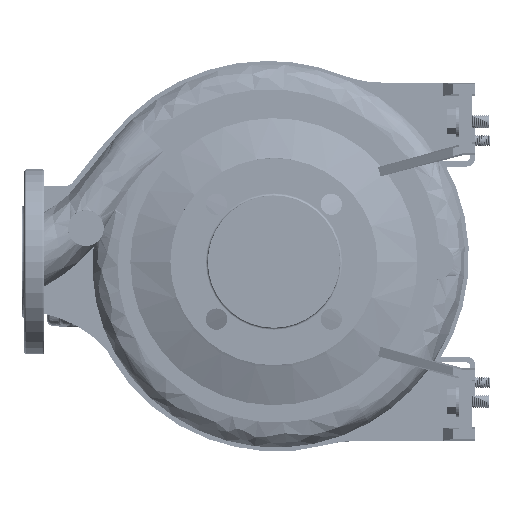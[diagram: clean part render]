
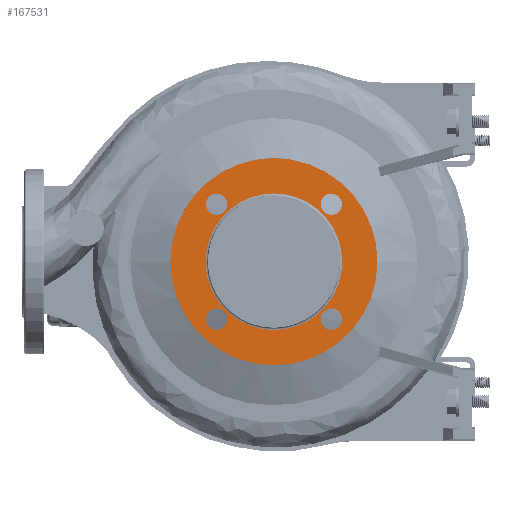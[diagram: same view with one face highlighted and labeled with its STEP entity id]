
A CAD part, left-side view. The second image highlights one B-rep face of the part: STEP entity #167531.
In plain terms, the highlighted planar face has unit normal (-1, 0, 0).
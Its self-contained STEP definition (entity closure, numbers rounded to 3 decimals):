
#414 = DIRECTION ( 'NONE',  ( 0., -1., 0. ) ) ;
#1096 = CIRCLE ( 'NONE', #25964, 9.5 ) ;
#3882 = ORIENTED_EDGE ( 'NONE', *, *, #30816, .F. ) ;
#6359 = CIRCLE ( 'NONE', #102865, 92.5 ) ;
#7039 = CARTESIAN_POINT ( 'NONE',  ( -98., -51.265, 41.765 ) ) ;
#8091 = VERTEX_POINT ( 'NONE', #98001 ) ;
#9513 = CARTESIAN_POINT ( 'NONE',  ( -98., 60.765, 51.265 ) ) ;
#9839 = DIRECTION ( 'NONE',  ( 0., 1., 0. ) ) ;
#11845 = CIRCLE ( 'NONE', #135949, 9.5 ) ;
#14745 = DIRECTION ( 'NONE',  ( -1., 0., 0. ) ) ;
#18805 = CIRCLE ( 'NONE', #73979, 61. ) ;
#19318 = VERTEX_POINT ( 'NONE', #140606 ) ;
#20040 = DIRECTION ( 'NONE',  ( 0., -1., 0. ) ) ;
#24149 = ORIENTED_EDGE ( 'NONE', *, *, #168533, .F. ) ;
#25964 = AXIS2_PLACEMENT_3D ( 'NONE', #110419, #163104, #44752 ) ;
#26409 = EDGE_CURVE ( 'NONE', #160502, #70200, #128649, .T. ) ;
#26919 = ORIENTED_EDGE ( 'NONE', *, *, #167128, .T. ) ;
#29007 = DIRECTION ( 'NONE',  ( -1., 0., 0. ) ) ;
#30816 = EDGE_CURVE ( 'NONE', #109423, #133496, #11845, .T. ) ;
#31206 = DIRECTION ( 'NONE',  ( -1., 0., 0. ) ) ;
#32126 = DIRECTION ( 'NONE',  ( -1., 0., 0. ) ) ;
#32672 = CARTESIAN_POINT ( 'NONE',  ( -98., 0., 0. ) ) ;
#33238 = EDGE_LOOP ( 'NONE', ( #149882, #120349 ) ) ;
#36267 = AXIS2_PLACEMENT_3D ( 'NONE', #104863, #131645, #414 ) ;
#37801 = DIRECTION ( 'NONE',  ( 1., 0., 0. ) ) ;
#37966 = DIRECTION ( 'NONE',  ( 0., 0., -1. ) ) ;
#37975 = CIRCLE ( 'NONE', #115182, 9.5 ) ;
#38346 = AXIS2_PLACEMENT_3D ( 'NONE', #93298, #14745, #135593 ) ;
#40381 = CARTESIAN_POINT ( 'NONE',  ( -98., 51.265, -51.265 ) ) ;
#42328 = ORIENTED_EDGE ( 'NONE', *, *, #152050, .F. ) ;
#42766 = EDGE_LOOP ( 'NONE', ( #85285, #104868 ) ) ;
#44752 = DIRECTION ( 'NONE',  ( 0., 0., 1. ) ) ;
#45343 = DIRECTION ( 'NONE',  ( 0., -1., 0. ) ) ;
#45909 = FACE_OUTER_BOUND ( 'NONE', #33238, .T. ) ;
#47424 = ORIENTED_EDGE ( 'NONE', *, *, #75662, .F. ) ;
#51320 = AXIS2_PLACEMENT_3D ( 'NONE', #32672, #59417, #56853 ) ;
#51357 = CARTESIAN_POINT ( 'NONE',  ( -98., -51.265, -51.265 ) ) ;
#53063 = DIRECTION ( 'NONE',  ( 0., 1., 0. ) ) ;
#54911 = ORIENTED_EDGE ( 'NONE', *, *, #26409, .T. ) ;
#56133 = CARTESIAN_POINT ( 'NONE',  ( -98., 0., 0. ) ) ;
#56853 = DIRECTION ( 'NONE',  ( 0., 1., 0. ) ) ;
#58570 = EDGE_CURVE ( 'NONE', #8091, #110265, #100373, .T. ) ;
#59417 = DIRECTION ( 'NONE',  ( 1., 0., 0. ) ) ;
#63254 = VERTEX_POINT ( 'NONE', #7039 ) ;
#69314 = CARTESIAN_POINT ( 'NONE',  ( -98., -60.765, -51.265 ) ) ;
#70200 = VERTEX_POINT ( 'NONE', #100664 ) ;
#71241 = CARTESIAN_POINT ( 'NONE',  ( -98., 51.265, 51.265 ) ) ;
#72237 = CARTESIAN_POINT ( 'NONE',  ( -98., 92.5, 0. ) ) ;
#73979 = AXIS2_PLACEMENT_3D ( 'NONE', #156599, #167868, #9839 ) ;
#75137 = DIRECTION ( 'NONE',  ( -1., 0., 0. ) ) ;
#75662 = EDGE_CURVE ( 'NONE', #19318, #109527, #1096, .T. ) ;
#77530 = CIRCLE ( 'NONE', #91354, 9.5 ) ;
#79554 = AXIS2_PLACEMENT_3D ( 'NONE', #162543, #32126, #20040 ) ;
#81991 = CARTESIAN_POINT ( 'NONE',  ( -98., 41.765, 51.265 ) ) ;
#82462 = EDGE_CURVE ( 'NONE', #103942, #166622, #37975, .T. ) ;
#83196 = VERTEX_POINT ( 'NONE', #104650 ) ;
#85285 = ORIENTED_EDGE ( 'NONE', *, *, #123116, .F. ) ;
#88315 = CIRCLE ( 'NONE', #102133, 9.5 ) ;
#89452 = EDGE_LOOP ( 'NONE', ( #103983, #42328 ) ) ;
#90009 = CARTESIAN_POINT ( 'NONE',  ( -98., 61., 0. ) ) ;
#91354 = AXIS2_PLACEMENT_3D ( 'NONE', #40381, #105183, #158728 ) ;
#93298 = CARTESIAN_POINT ( 'NONE',  ( -98., -51.265, -51.265 ) ) ;
#94636 = EDGE_LOOP ( 'NONE', ( #24149, #3882 ) ) ;
#96822 = CARTESIAN_POINT ( 'NONE',  ( -98., -51.265, 51.265 ) ) ;
#97754 = FACE_BOUND ( 'NONE', #104110, .T. ) ;
#98001 = CARTESIAN_POINT ( 'NONE',  ( -98., -92.5, 0. ) ) ;
#100373 = CIRCLE ( 'NONE', #111471, 92.5 ) ;
#100664 = CARTESIAN_POINT ( 'NONE',  ( -98., -61., 0. ) ) ;
#102133 = AXIS2_PLACEMENT_3D ( 'NONE', #157158, #75137, #37966 ) ;
#102865 = AXIS2_PLACEMENT_3D ( 'NONE', #116427, #37801, #130236 ) ;
#103942 = VERTEX_POINT ( 'NONE', #9513 ) ;
#103983 = ORIENTED_EDGE ( 'NONE', *, *, #151250, .F. ) ;
#104110 = EDGE_LOOP ( 'NONE', ( #47424, #168582 ) ) ;
#104650 = CARTESIAN_POINT ( 'NONE',  ( -98., -51.265, 60.765 ) ) ;
#104863 = CARTESIAN_POINT ( 'NONE',  ( -98., 51.265, 51.265 ) ) ;
#104868 = ORIENTED_EDGE ( 'NONE', *, *, #82462, .F. ) ;
#105183 = DIRECTION ( 'NONE',  ( -1., 0., 0. ) ) ;
#108842 = DIRECTION ( 'NONE',  ( 1., 0., 0. ) ) ;
#109423 = VERTEX_POINT ( 'NONE', #165044 ) ;
#109527 = VERTEX_POINT ( 'NONE', #127851 ) ;
#110265 = VERTEX_POINT ( 'NONE', #72237 ) ;
#110419 = CARTESIAN_POINT ( 'NONE',  ( -98., 51.265, -51.265 ) ) ;
#110713 = FACE_BOUND ( 'NONE', #165516, .T. ) ;
#110766 = CIRCLE ( 'NONE', #36267, 9.5 ) ;
#111471 = AXIS2_PLACEMENT_3D ( 'NONE', #56133, #108842, #161525 ) ;
#115182 = AXIS2_PLACEMENT_3D ( 'NONE', #71241, #29007, #45343 ) ;
#116427 = CARTESIAN_POINT ( 'NONE',  ( -98., 0., 0. ) ) ;
#120349 = ORIENTED_EDGE ( 'NONE', *, *, #58570, .F. ) ;
#121964 = FACE_BOUND ( 'NONE', #42766, .T. ) ;
#122760 = DIRECTION ( 'NONE',  ( 0., 0., -1. ) ) ;
#123116 = EDGE_CURVE ( 'NONE', #166622, #103942, #110766, .T. ) ;
#124951 = EDGE_CURVE ( 'NONE', #110265, #8091, #6359, .T. ) ;
#127851 = CARTESIAN_POINT ( 'NONE',  ( -98., 51.265, -60.765 ) ) ;
#128649 = CIRCLE ( 'NONE', #51320, 61. ) ;
#130236 = DIRECTION ( 'NONE',  ( 0., 1., 0. ) ) ;
#131645 = DIRECTION ( 'NONE',  ( -1., 0., 0. ) ) ;
#132615 = CIRCLE ( 'NONE', #154672, 9.5 ) ;
#133496 = VERTEX_POINT ( 'NONE', #69314 ) ;
#135593 = DIRECTION ( 'NONE',  ( 0., 1., 0. ) ) ;
#135949 = AXIS2_PLACEMENT_3D ( 'NONE', #51357, #145515, #53063 ) ;
#136643 = PLANE ( 'NONE',  #79554 ) ;
#137509 = FACE_BOUND ( 'NONE', #94636, .T. ) ;
#140606 = CARTESIAN_POINT ( 'NONE',  ( -98., 51.265, -41.765 ) ) ;
#145515 = DIRECTION ( 'NONE',  ( -1., 0., 0. ) ) ;
#146612 = EDGE_CURVE ( 'NONE', #109527, #19318, #77530, .T. ) ;
#149882 = ORIENTED_EDGE ( 'NONE', *, *, #124951, .F. ) ;
#151250 = EDGE_CURVE ( 'NONE', #83196, #63254, #88315, .T. ) ;
#152050 = EDGE_CURVE ( 'NONE', #63254, #83196, #132615, .T. ) ;
#154672 = AXIS2_PLACEMENT_3D ( 'NONE', #96822, #31206, #122760 ) ;
#156599 = CARTESIAN_POINT ( 'NONE',  ( -98., 0., 0. ) ) ;
#156982 = CIRCLE ( 'NONE', #38346, 9.5 ) ;
#157158 = CARTESIAN_POINT ( 'NONE',  ( -98., -51.265, 51.265 ) ) ;
#158728 = DIRECTION ( 'NONE',  ( 0., 0., 1. ) ) ;
#160502 = VERTEX_POINT ( 'NONE', #90009 ) ;
#161525 = DIRECTION ( 'NONE',  ( 0., 1., 0. ) ) ;
#162543 = CARTESIAN_POINT ( 'NONE',  ( -98., 61., 0. ) ) ;
#163104 = DIRECTION ( 'NONE',  ( -1., 0., 0. ) ) ;
#164271 = FACE_BOUND ( 'NONE', #89452, .T. ) ;
#165044 = CARTESIAN_POINT ( 'NONE',  ( -98., -41.765, -51.265 ) ) ;
#165516 = EDGE_LOOP ( 'NONE', ( #54911, #26919 ) ) ;
#166622 = VERTEX_POINT ( 'NONE', #81991 ) ;
#167128 = EDGE_CURVE ( 'NONE', #70200, #160502, #18805, .T. ) ;
#167531 = ADVANCED_FACE ( 'NONE', ( #97754, #137509, #164271, #121964, #110713, #45909 ), #136643, .T. ) ;
#167868 = DIRECTION ( 'NONE',  ( 1., 0., 0. ) ) ;
#168533 = EDGE_CURVE ( 'NONE', #133496, #109423, #156982, .T. ) ;
#168582 = ORIENTED_EDGE ( 'NONE', *, *, #146612, .F. ) ;
